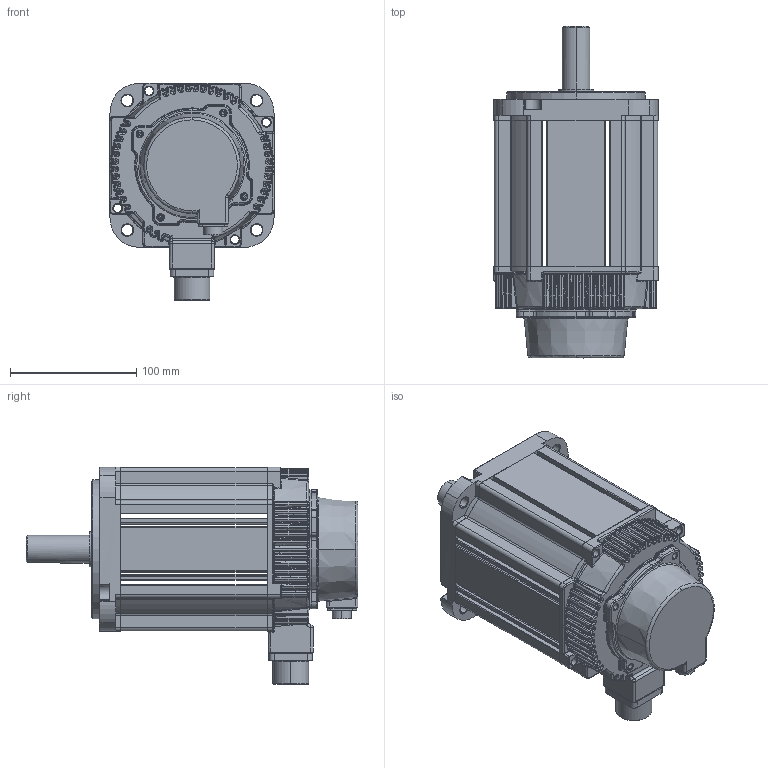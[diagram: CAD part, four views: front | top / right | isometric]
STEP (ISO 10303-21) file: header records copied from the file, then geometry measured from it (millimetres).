
FILE_DESCRIPTION (( 'STEP AP203' ), '1' );
FILE_NAME ('130BST-M14615.STEP', '2021-12-20T00:58:39', ( '' ), ( '' ), 'SwSTEP 2.0', 'SolidWorks 2015', '' );
FILE_SCHEMA (( 'CONFIG_CONTROL_DESIGN' ));
Products named in the file (1): 130BST-M14615
Bounding box: 130 x 263 x 172.35 mm (x, y, z)
Surface area: 160260.4 mm2 (no closed solid volume)
Topology: 0 solids, 26 shells, 1834 faces, 4501 edges, 2668 vertices
Faces by surface type: bspline 700, cylinder 606, plane 311, torus 111, cone 106
Entity records: 93157 total; most frequent: CARTESIAN_POINT 57201, ORIENTED_EDGE 8394, DIRECTION 5883, EDGE_CURVE 4491, VERTEX_POINT 2668, AXIS2_PLACEMENT_3D 2384, EDGE_LOOP 1918, FACE_OUTER_BOUND 1834
